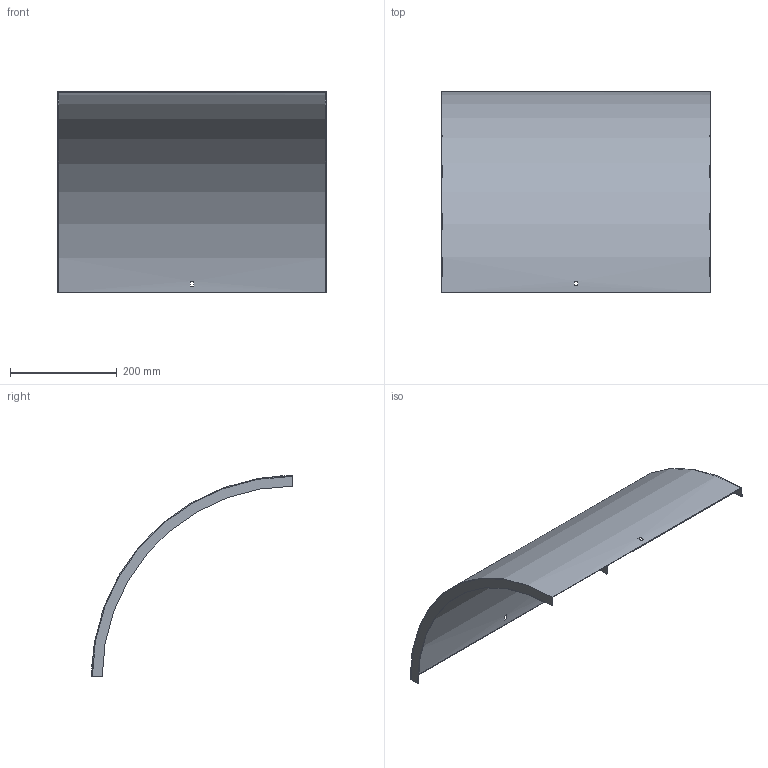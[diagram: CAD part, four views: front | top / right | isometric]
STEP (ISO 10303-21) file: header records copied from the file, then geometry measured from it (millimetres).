
FILE_DESCRIPTION (( 'STEP AP214' ), '1' );
FILE_NAME ('B2_33N3C500.step', '2025-02-21T10:46:36', ( '' ), ( '' ), 'SwSTEP 2.0', 'SolidWorks 2023', '' );
FILE_SCHEMA (( 'AUTOMOTIVE_DESIGN' ));
Length unit declared in the file: millimetre
Products named in the file (1): B2_33N3C500
Bounding box: 503 x 376.5 x 376.5 mm (x, y, z)
Volume: 477036.2 mm3; surface area: 639444.8 mm2
Topology: 1 solids, 1 shells, 18 faces, 48 edges, 32 vertices
Faces by surface type: plane 14, cylinder 4
Entity records: 599 total; most frequent: DIRECTION 102, CARTESIAN_POINT 99, ORIENTED_EDGE 96, EDGE_CURVE 48, AXIS2_PLACEMENT_3D 35, LINE 32, VERTEX_POINT 32, VECTOR 32
